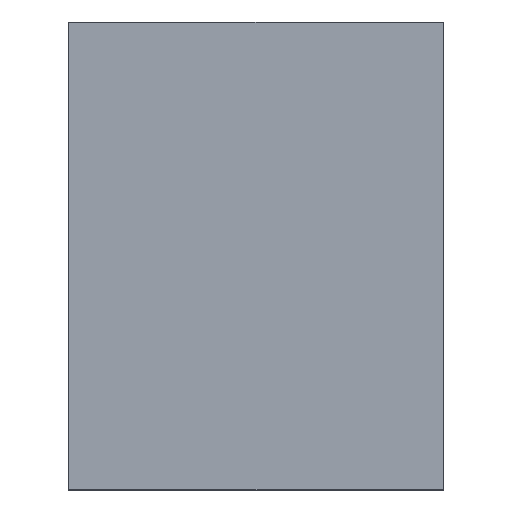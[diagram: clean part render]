
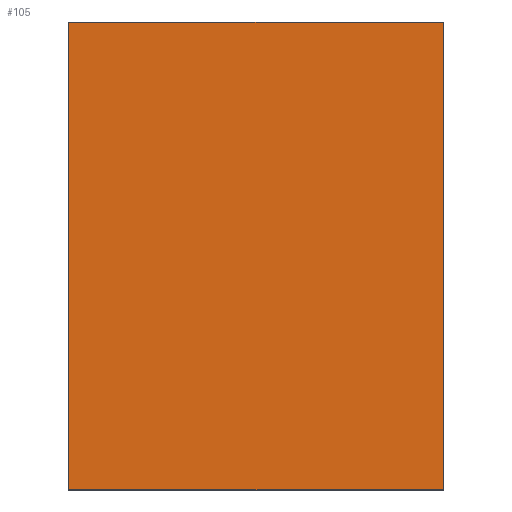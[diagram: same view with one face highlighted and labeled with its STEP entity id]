
A CAD part, top view. The second image highlights one B-rep face of the part: STEP entity #105.
In plain terms, the highlighted planar face has unit normal (0, 0, 1).
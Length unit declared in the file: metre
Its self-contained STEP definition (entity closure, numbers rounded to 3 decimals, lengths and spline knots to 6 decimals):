
#16=ORIENTED_EDGE('',*,*,#40,.T.);
#17=ORIENTED_EDGE('',*,*,#41,.T.);
#18=ORIENTED_EDGE('',*,*,#42,.T.);
#19=ORIENTED_EDGE('',*,*,#43,.T.);
#40=EDGE_CURVE('',#52,#53,#60,.T.);
#41=EDGE_CURVE('',#53,#54,#61,.T.);
#42=EDGE_CURVE('',#54,#55,#62,.T.);
#43=EDGE_CURVE('',#55,#52,#63,.T.);
#52=VERTEX_POINT('',#204);
#53=VERTEX_POINT('',#205);
#54=VERTEX_POINT('',#207);
#55=VERTEX_POINT('',#209);
#60=LINE('',#203,#72);
#61=LINE('',#206,#73);
#62=LINE('',#208,#74);
#63=LINE('',#210,#75);
#72=VECTOR('',#176,1.);
#73=VECTOR('',#177,1.);
#74=VECTOR('',#178,1.);
#75=VECTOR('',#179,1.);
#81=EDGE_LOOP('',(#16,#17,#18,#19));
#87=FACE_BOUND('',#81,.T.);
#93=PLANE('',#161);
#105=ADVANCED_FACE('',(#87),#93,.T.);
#161=AXIS2_PLACEMENT_3D('',#202,#174,#175);
#174=DIRECTION('',(0.,0.,1.));
#175=DIRECTION('',(0.,1.,0.));
#176=DIRECTION('',(0.,-1.,0.));
#177=DIRECTION('',(1.,0.,0.));
#178=DIRECTION('',(0.,1.,0.));
#179=DIRECTION('',(-1.,0.,0.));
#202=CARTESIAN_POINT('',(0.0045,0.009,0.00095));
#203=CARTESIAN_POINT('',(0.0041,0.0085,0.00095));
#204=CARTESIAN_POINT('',(0.0041,0.0095,0.00095));
#205=CARTESIAN_POINT('',(0.0041,0.0085,0.00095));
#206=CARTESIAN_POINT('',(0.0049,0.0085,0.00095));
#207=CARTESIAN_POINT('',(0.0049,0.0085,0.00095));
#208=CARTESIAN_POINT('',(0.0049,0.0085,0.00095));
#209=CARTESIAN_POINT('',(0.0049,0.0095,0.00095));
#210=CARTESIAN_POINT('',(0.0049,0.0095,0.00095));
